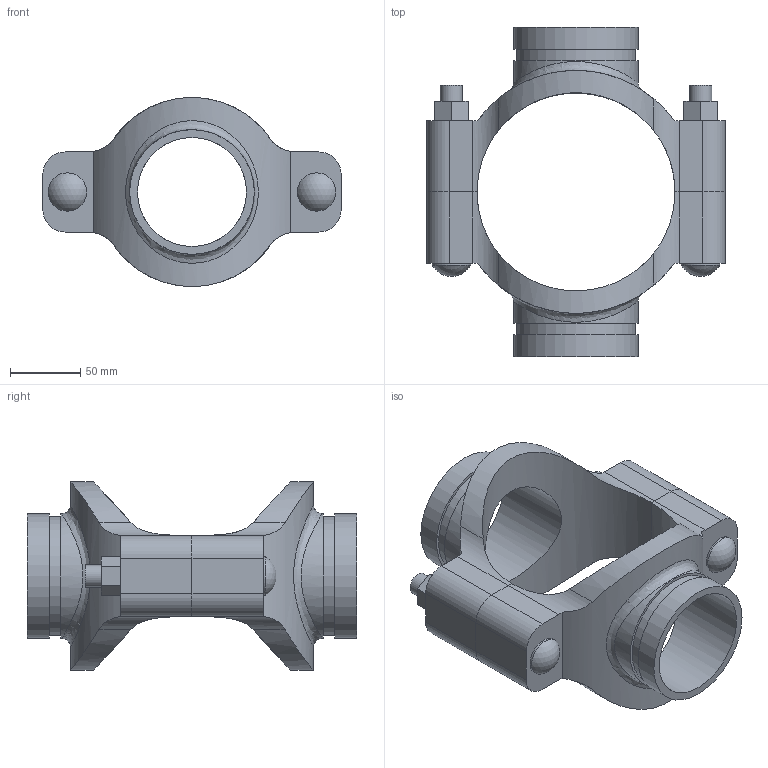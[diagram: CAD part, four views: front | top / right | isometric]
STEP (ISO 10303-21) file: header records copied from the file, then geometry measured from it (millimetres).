
FILE_DESCRIPTION(/* description */ ('VIC MECH-T BRANCH OUTLET CROSS STYLE 920N (GRVD)','CAx-IF Rec.Pracs.---Representation and Presentation of Product Manufacturing Information (PMI)---4.0---2014-10-13'),/* implementation_level */ '2;1');
FILE_NAME(/* name */ 'C:\Users\Vjadhav\AppData\Roaming\Autodesk\ApplicationPlugins\Back Up\Victaulic_IPS_Mechanical-Cross Outlet_Style 920N (OGS)\Victaulic_IPS_Mechanical-Cross Outlet_05.0x03.0x03.0 (125x80x80).stp',/* time_stamp */ '2020-08-06T19:44:33+05:00',/* author */ ('Vjadhav'),/* organization */ ('Victaulic'),/* preprocessor_version */ 'ST-DEVELOPER v17.2',/* originating_system */ 'Autodesk Inventor 2019',/* authorisation */ '');
FILE_SCHEMA (('AP242_MANAGED_MODEL_BASED_3D_ENGINEERING_MIM_LF { 1 0 10303 442 1 1 4 }'));
Length unit declared in the file: inch
Products named in the file (3): 920NG-05.0x03.0x03.0; 920G-05.0x03.0; 920G-05.0x03.0_1
Assembly tree (2 placements, depth 2):
  920NG-05.0x03.0x03.0
    920G-05.0x03.0
    920G-05.0x03.0_1
Bounding box: 212.85 x 235.2 x 134.68 mm (x, y, z)
Volume: 904388.8 mm3; surface area: 182433 mm2
Topology: 2 solids, 2 shells, 104 faces, 262 edges, 178 vertices
Faces by surface type: plane 54, cylinder 46, sphere 2, bspline 2
Full cylindrical faces by diameter (mm): 15.875 x4, 27.381 x2, 77.787 x2, 84.938 x2, 88.9 x4
Entity records: 4206 total; most frequent: CARTESIAN_POINT 1433, DIRECTION 532, ORIENTED_EDGE 524, EDGE_CURVE 262, AXIS2_PLACEMENT_3D 193, VERTEX_POINT 178, LINE 146, VECTOR 146
